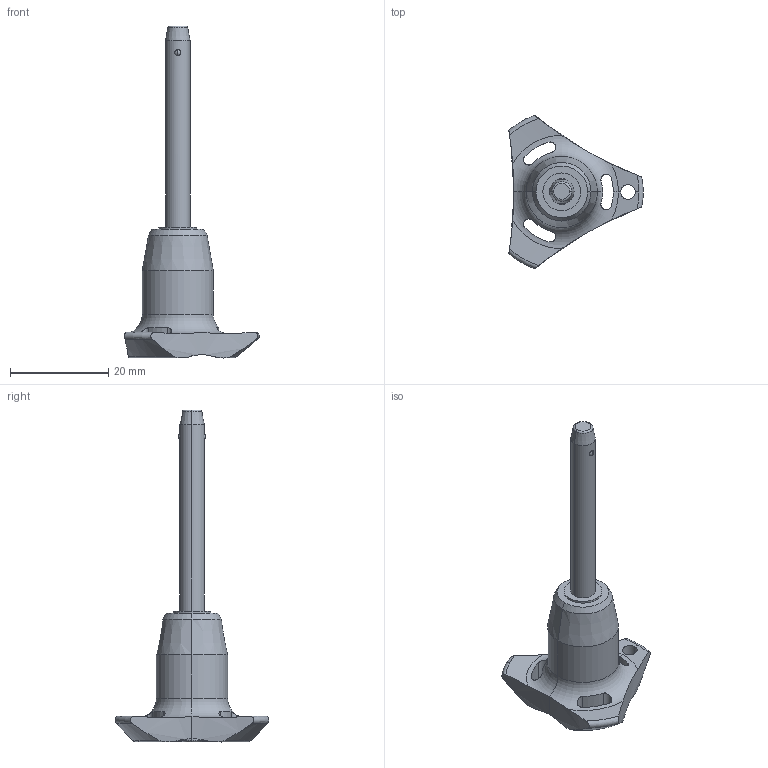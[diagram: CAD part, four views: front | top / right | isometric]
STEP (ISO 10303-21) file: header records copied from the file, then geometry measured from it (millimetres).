
FILE_DESCRIPTION (( 'STEP AP203' ), '1' );
FILE_NAME ('QR1724.M05-035-S.step', '2025-11-12T12:42:38', ( '' ), ( '' ), 'SwSTEP 2.0', 'SolidWorks 2019', '' );
FILE_SCHEMA (( 'CONFIG_CONTROL_DESIGN' ));
Length unit declared in the file: millimetre
Products named in the file (1): QR1724.M05-035-S
Bounding box: 27.4 x 31.31 x 67.7 mm (x, y, z)
Volume: 5555.2 mm3; surface area: 3058.1 mm2
Topology: 1 solids, 1 shells, 66 faces, 181 edges, 115 vertices
Faces by surface type: cylinder 30, cone 14, torus 12, sphere 6, plane 4
Entity records: 2693 total; most frequent: CARTESIAN_POINT 981, ORIENTED_EDGE 362, DIRECTION 332, EDGE_CURVE 181, AXIS2_PLACEMENT_3D 148, VERTEX_POINT 115, CIRCLE 81, EDGE_LOOP 72
